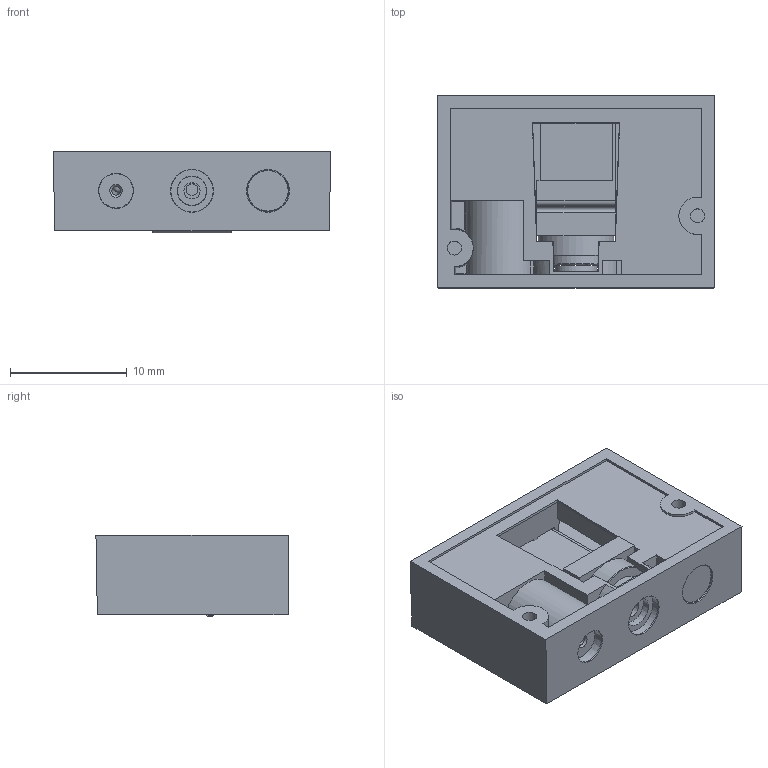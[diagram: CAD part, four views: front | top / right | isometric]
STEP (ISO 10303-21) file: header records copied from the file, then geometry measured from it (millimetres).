
FILE_DESCRIPTION(/* description */ (''),/* implementation_level */ '2;1');
FILE_NAME(/* name */ 'D:/360安全云盘同步版/产品文档2022/RT218/218修改外壳/RT218 3D NEW.step',/* time_stamp */ '2022-11-01T16:07:47+08:00',/* author */ (''),/* organization */ (''),/* preprocessor_version */ 'ST-DEVELOPER v15.2',/* originating_system */ 'Autodesk Translator Framework v2.0.0.5431',/* authorisation */ '');
FILE_SCHEMA (('AUTOMOTIVE_DESIGN { 1 0 10303 214 3 1 1 }'));
Length unit declared in the file: centimetre
Products named in the file (1): (未保存)
Bounding box: 23.74 x 16.44 x 7 mm (x, y, z)
Volume: 1526.4 mm3; surface area: 3000 mm2
Topology: 4 solids, 6 shells, 357 faces, 1309 edges, 986 vertices
Faces by surface type: plane 295, cylinder 32, cone 20, bspline 9, torus 1
Full cylindrical faces by diameter (mm): 0.75 x2, 1 x5, 1.2 x2, 2 x2, 2.417 x1, 3 x1, 3.46 x2, 3.66 x1, 3.67 x1, 4.72 x1, 6.5 x1
Entity records: 20657 total; most frequent: CARTESIAN_POINT 10562, ORIENTED_EDGE 2398, DIRECTION 1659, EDGE_CURVE 1199, VERTEX_POINT 907, LINE 723, VECTOR 723, AXIS2_PLACEMENT_3D 468
